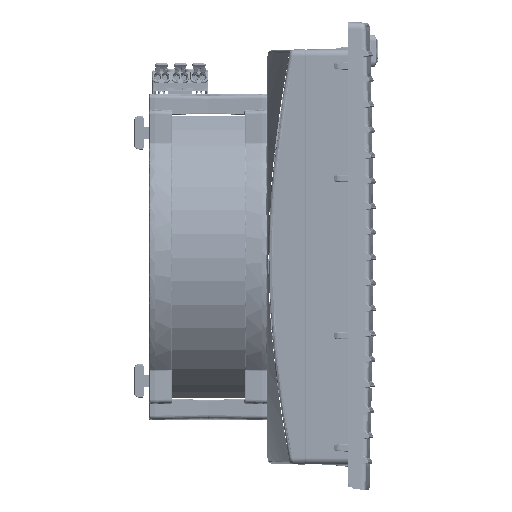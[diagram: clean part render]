
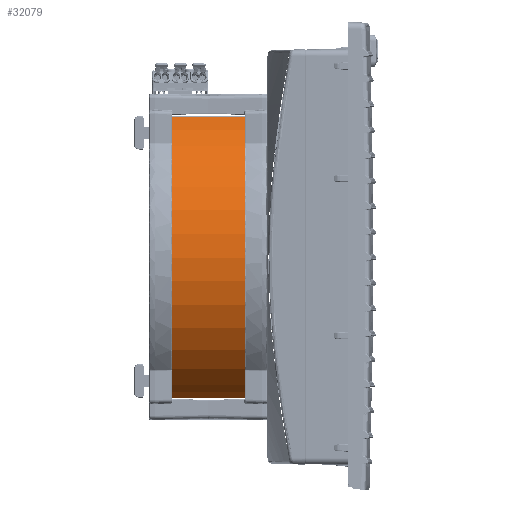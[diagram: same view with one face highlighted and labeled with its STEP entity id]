
A CAD part, left-side view. The second image highlights one B-rep face of the part: STEP entity #32079.
In plain terms, the highlighted free-form (B-spline) face has degree [1, 2] with [2, 5] control points.
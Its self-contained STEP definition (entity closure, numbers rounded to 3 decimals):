
#32079=ADVANCED_FACE('',(#37560),#145100,.T.);
#37560=FACE_OUTER_BOUND('',#43041,.T.);
#43041=EDGE_LOOP('',(#48635,#48636,#48637,#48638));
#48635=ORIENTED_EDGE('',*,*,#76322,.F.);
#48636=ORIENTED_EDGE('',*,*,#76321,.F.);
#48637=ORIENTED_EDGE('',*,*,#76320,.T.);
#48638=ORIENTED_EDGE('',*,*,#76310,.T.);
#76310=EDGE_CURVE('',#123242,#123243,#120146,.T.);
#76320=EDGE_CURVE('',#123248,#123242,#99779,.T.);
#76321=EDGE_CURVE('',#123248,#123249,#120150,.T.);
#76322=EDGE_CURVE('',#123249,#123243,#99780,.T.);
#99779=B_SPLINE_CURVE_WITH_KNOTS('',1,(#151598,#151599),.UNSPECIFIED.,.F.,
 .F.,(2,2),(-51.,0.),.UNSPECIFIED.);
#99780=B_SPLINE_CURVE_WITH_KNOTS('',1,(#151605,#151606),.UNSPECIFIED.,.F.,
 .F.,(2,2),(-51.,0.),.UNSPECIFIED.);
#120146=(
BOUNDED_CURVE()
B_SPLINE_CURVE(2,(#151570,#151571,#151572,#151573,#151574),
 .UNSPECIFIED.,.F.,.F.)
B_SPLINE_CURVE_WITH_KNOTS((3,2,3),(162.637,163.719,164.801),
 .UNSPECIFIED.)
CURVE()
GEOMETRIC_REPRESENTATION_ITEM()
RATIONAL_B_SPLINE_CURVE((1.,0.857,1.,0.857,1.))
REPRESENTATION_ITEM('')
);
#120150=(
BOUNDED_CURVE()
B_SPLINE_CURVE(2,(#151600,#151601,#151602,#151603,#151604),
 .UNSPECIFIED.,.F.,.F.)
B_SPLINE_CURVE_WITH_KNOTS((3,2,3),(162.637,163.719,164.801),
 .UNSPECIFIED.)
CURVE()
GEOMETRIC_REPRESENTATION_ITEM()
RATIONAL_B_SPLINE_CURVE((1.,0.857,1.,0.857,1.))
REPRESENTATION_ITEM('')
);
#123242=VERTEX_POINT('',#151549);
#123243=VERTEX_POINT('',#151550);
#123248=VERTEX_POINT('',#151555);
#123249=VERTEX_POINT('',#151556);
#145100=(
BOUNDED_SURFACE()
B_SPLINE_SURFACE(1,2,((#151533,#151534,#151535,#151536,#151537),(#151538,
#151539,#151540,#151541,#151542)),.UNSPECIFIED.,.F.,.F.,.F.)
B_SPLINE_SURFACE_WITH_KNOTS((2,2),(3,2,3),(0.,51.),(-164.801,
-163.719,-162.637),.UNSPECIFIED.)
GEOMETRIC_REPRESENTATION_ITEM()
RATIONAL_B_SPLINE_SURFACE(((1.,0.857,1.,0.857,1.),
(1.,0.857,1.,0.857,1.)))
REPRESENTATION_ITEM('')
SURFACE()
);
#151533=CARTESIAN_POINT('',(-39.048,11.707,-54.922));
#151534=CARTESIAN_POINT('',(-84.415,11.707,-31.459));
#151535=CARTESIAN_POINT('',(-84.995,11.707,19.613));
#151536=CARTESIAN_POINT('',(-85.574,11.707,70.686));
#151537=CARTESIAN_POINT('',(-40.751,11.707,95.172));
#151538=CARTESIAN_POINT('',(-39.048,-39.293,-54.922));
#151539=CARTESIAN_POINT('',(-84.415,-39.293,-31.459));
#151540=CARTESIAN_POINT('',(-84.995,-39.293,19.613));
#151541=CARTESIAN_POINT('',(-85.574,-39.293,70.686));
#151542=CARTESIAN_POINT('',(-40.751,-39.293,95.172));
#151549=CARTESIAN_POINT('',(-40.751,11.707,95.172));
#151550=CARTESIAN_POINT('',(-39.048,11.707,-54.922));
#151555=CARTESIAN_POINT('',(-40.751,-39.293,95.172));
#151556=CARTESIAN_POINT('',(-39.048,-39.293,-54.922));
#151570=CARTESIAN_POINT('',(-40.751,11.707,95.172));
#151571=CARTESIAN_POINT('',(-85.574,11.707,70.686));
#151572=CARTESIAN_POINT('',(-84.995,11.707,19.613));
#151573=CARTESIAN_POINT('',(-84.415,11.707,-31.459));
#151574=CARTESIAN_POINT('',(-39.048,11.707,-54.922));
#151598=CARTESIAN_POINT('',(-40.751,-39.293,95.172));
#151599=CARTESIAN_POINT('',(-40.751,11.707,95.172));
#151600=CARTESIAN_POINT('',(-40.751,-39.293,95.172));
#151601=CARTESIAN_POINT('',(-85.574,-39.293,70.686));
#151602=CARTESIAN_POINT('',(-84.995,-39.293,19.613));
#151603=CARTESIAN_POINT('',(-84.415,-39.293,-31.459));
#151604=CARTESIAN_POINT('',(-39.048,-39.293,-54.922));
#151605=CARTESIAN_POINT('',(-39.048,-39.293,-54.922));
#151606=CARTESIAN_POINT('',(-39.048,11.707,-54.922));
